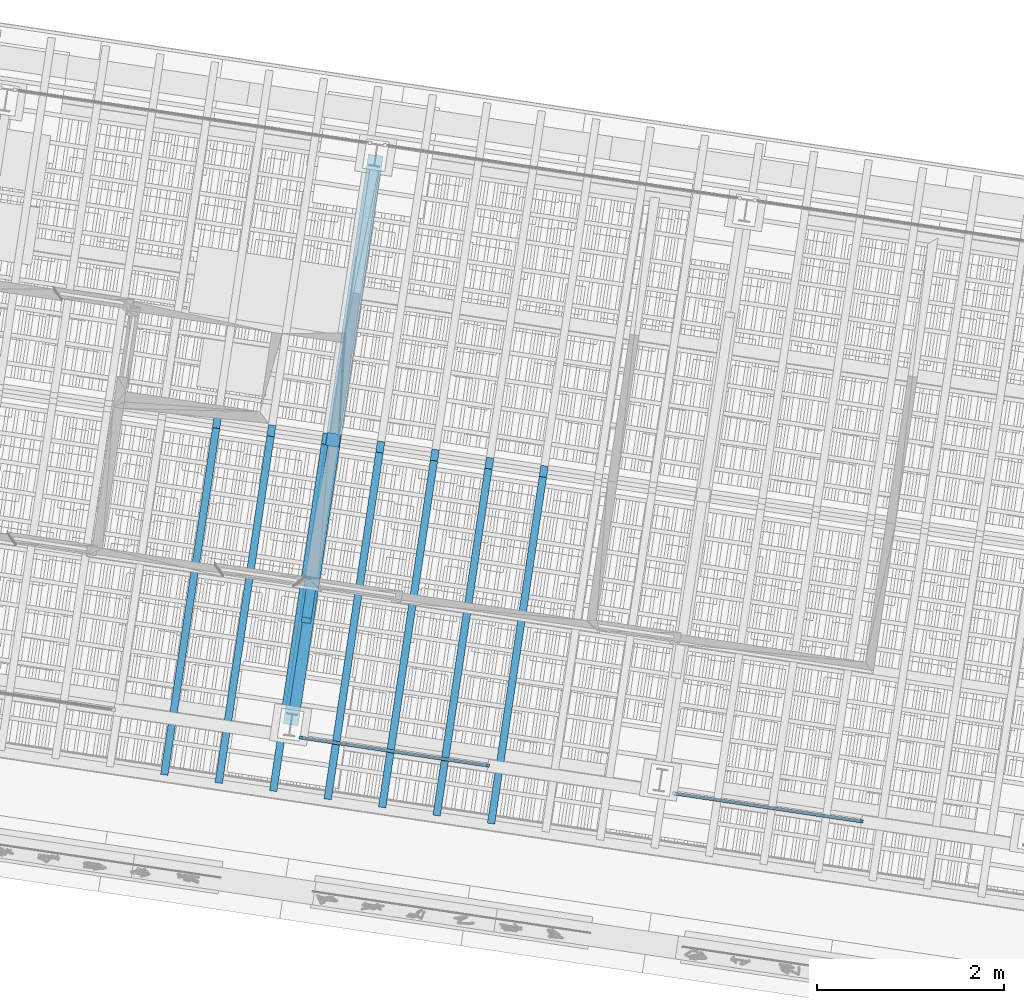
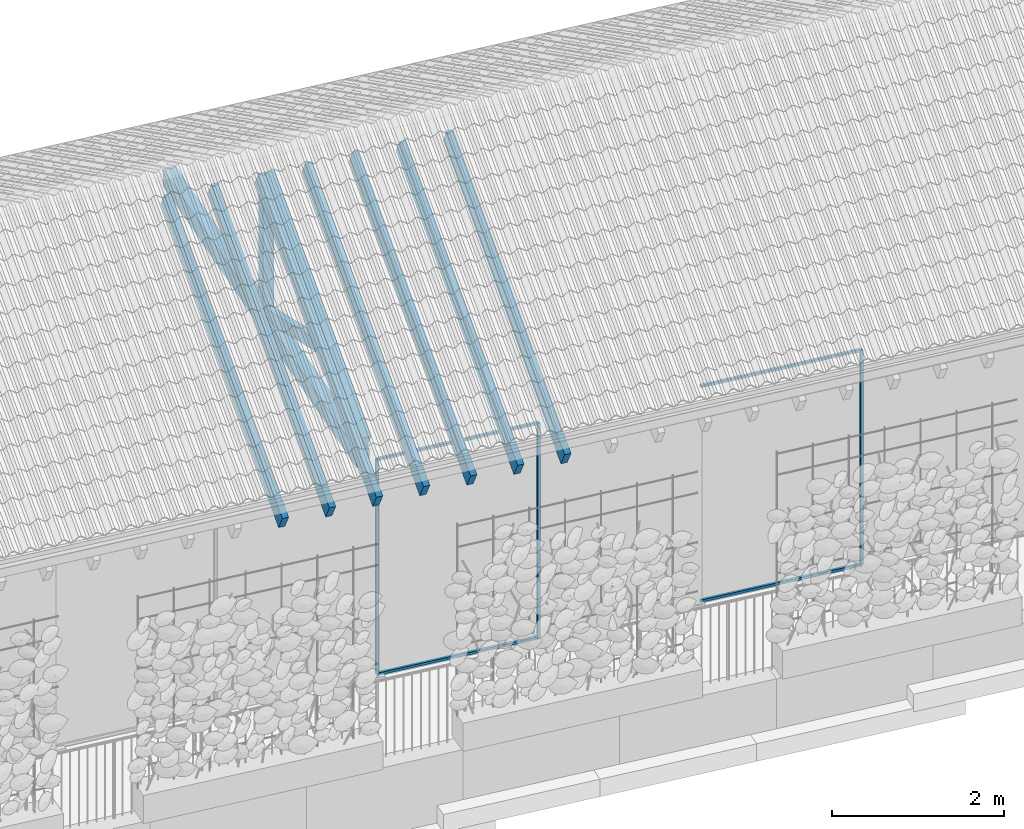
# One storey, part 76 of 128: 17 members, 1 beam, 1 element without a shape of its own.
"""IFC4 building model written with IfcOpenShell, lengths in metres."""

from ifc_helpers import new_model, si_unit, direction, frame, origin_with_axes, place, context, subcontext, project, spatial, rectangle, extrude, material, material_profile, profile_set, profile_usage, type_object, element, aggregate, save


model = new_model("IFC4")

# Units and contexts
model_context = context("Model", 3, precision=1e-05, world=origin_with_axes(), true_north=direction((0.0, 1.0)))
body_context = subcontext(model_context, "Body", "Model", "MODEL_VIEW")
ifc_project = project(units=[si_unit("VOLUMEUNIT", "CUBIC_METRE"), si_unit("LENGTHUNIT", "METRE"), si_unit("AREAUNIT", "SQUARE_METRE")], contexts=[model_context])

# Site, building, storey
site_placement = place(None, origin_with_axes())
site = spatial("IfcSite", under=ifc_project, at=site_placement, Name="Lares · Rua das Mercês · artigo 4771")
building_placement = place(site_placement, frame((15.0, 9.7, 13.9), z_axis=(0.0, 0.0, 1.0), x_axis=(0.989015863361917, -0.147809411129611, 0.0)))
building = spatial("IfcBuilding", under=site, at=building_placement, Name="Casa Sobreposta")
storey_placement = place(building_placement, origin_with_axes())
storey = spatial("IfcBuildingStorey", under=building, at=storey_placement, Name="00 · Habitação e estacionamento", Elevation=13.9)

# Members
ifc_material_1 = material(Name="Aço pintado / Stahl lackiert", Category="steel")
ifc_material_profile_1 = material_profile(ifc_material_1, rectangle(XDim=0.035, YDim=0.035))
ifc_profile_set_1 = profile_set([ifc_material_profile_1], Name="R0.035")
ifc_profile_usage_1 = profile_usage(ifc_profile_set_1)
member_type_1 = type_object("IfcMemberType", Name="R0.035 / steel", PredefinedType="NOTDEFINED", material=ifc_profile_set_1)
member_1_placement = place(storey_placement, frame((12.128, 0.0, 0.0), z_axis=(0.0, 0.0, 1.0), x_axis=(1.0, 0.0, 0.0)))
element("IfcMember", 1, at=member_1_placement, inside=storey, type_object=member_type_1, material=ifc_profile_usage_1, Name="Folha de correr sul 6 · montante", context=body_context, shape_type="SweptSolid", body=[
    extrude(rectangle(XDim=0.035, YDim=0.035), origin_with_axes(), (0.0, 0.0, 1.0), 3.05),
])
ifc_profile_usage_2 = profile_usage(ifc_profile_set_1)
member_2_placement = place(storey_placement, frame((14.1493333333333, 0.0, 0.0), z_axis=(0.0, 0.0, 1.0), x_axis=(1.0, 0.0, 0.0)))
element("IfcMember", 2, at=member_2_placement, inside=storey, type_object=member_type_1, material=ifc_profile_usage_2, Name="Folha de correr sul 6 · montante", context=body_context, shape_type="SweptSolid", body=[
    extrude(rectangle(XDim=0.035, YDim=0.035), origin_with_axes(), (0.0, 0.0, 1.0), 3.05),
])
ifc_profile_usage_3 = profile_usage(ifc_profile_set_1)
member_3_placement = place(storey_placement, frame((12.128, 0.0, 0.0), z_axis=(1.0, 0.0, 0.0), x_axis=(0.0, -1.0, 0.0)))
element("IfcMember", 3, at=member_3_placement, inside=storey, type_object=member_type_1, material=ifc_profile_usage_3, Name="Folha de correr sul 6 · travessa", context=body_context, shape_type="SweptSolid", body=[
    extrude(rectangle(XDim=0.035, YDim=0.035), origin_with_axes(), (0.0, 0.0, 1.0), 2.02133333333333),
])
ifc_profile_usage_4 = profile_usage(ifc_profile_set_1)
member_4_placement = place(storey_placement, frame((12.128, 0.0, 3.05), z_axis=(1.0, 0.0, 0.0), x_axis=(0.0, -1.0, 0.0)))
element("IfcMember", 4, at=member_4_placement, inside=storey, type_object=member_type_1, material=ifc_profile_usage_4, Name="Folha de correr sul 6 · travessa", context=body_context, shape_type="SweptSolid", body=[
    extrude(rectangle(XDim=0.035, YDim=0.035), origin_with_axes(), (0.0, 0.0, 1.0), 2.02133333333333),
])
ifc_profile_usage_5 = profile_usage(ifc_profile_set_1)
member_5_placement = place(storey_placement, frame((18.192, 0.0, 0.0), z_axis=(0.0, 0.0, 1.0), x_axis=(1.0, 0.0, 0.0)))
element("IfcMember", 5, at=member_5_placement, inside=storey, type_object=member_type_1, material=ifc_profile_usage_5, Name="Folha de correr sul 8 · montante", context=body_context, shape_type="SweptSolid", body=[
    extrude(rectangle(XDim=0.035, YDim=0.035), origin_with_axes(), (0.0, 0.0, 1.0), 3.05),
])
ifc_profile_usage_6 = profile_usage(ifc_profile_set_1)
member_6_placement = place(storey_placement, frame((16.1706666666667, 0.0, 0.0), z_axis=(1.0, 0.0, 0.0), x_axis=(0.0, -1.0, 0.0)))
element("IfcMember", 6, at=member_6_placement, inside=storey, type_object=member_type_1, material=ifc_profile_usage_6, Name="Folha de correr sul 8 · travessa", context=body_context, shape_type="SweptSolid", body=[
    extrude(rectangle(XDim=0.035, YDim=0.035), origin_with_axes(), (0.0, 0.0, 1.0), 2.02133333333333),
])
ifc_profile_usage_7 = profile_usage(ifc_profile_set_1)
member_7_placement = place(storey_placement, frame((16.1706666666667, 0.0, 3.05), z_axis=(1.0, 0.0, 0.0), x_axis=(0.0, -1.0, 0.0)))
element("IfcMember", 7, at=member_7_placement, inside=storey, type_object=member_type_1, material=ifc_profile_usage_7, Name="Folha de correr sul 8 · travessa", context=body_context, shape_type="SweptSolid", body=[
    extrude(rectangle(XDim=0.035, YDim=0.035), origin_with_axes(), (0.0, 0.0, 1.0), 2.02133333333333),
])

# Roof, beam, members
ifc_material_2 = material(Name="Madeira / Bauholz", Category="wood")
roof_placement = place(storey_placement, origin_with_axes())
roof = element("IfcRoof", 8, at=roof_placement, inside=storey, material=ifc_material_2, Name="Cobertura de telha · duas águas 30 graus", PredefinedType="GABLE_ROOF")
ifc_material_profile_2 = material_profile(ifc_material_2, rectangle(XDim=0.16, YDim=0.24))
ifc_profile_set_2 = profile_set([ifc_material_profile_2], Name="TIMBER0.160x0.240")
ifc_profile_usage_8 = profile_usage(ifc_profile_set_2)
beam_type = type_object("IfcBeamType", Name="TIMBER0.160x0.240 / timber", PredefinedType="NOTDEFINED", material=ifc_profile_set_2)
beam_placement = place(roof_placement, frame((12.0, 0.12, 3.02), z_axis=(0.0, 1.0, 0.0), x_axis=(1.0, 0.0, 0.0)))
beam = element("IfcBeam", 9, at=beam_placement, type_object=beam_type, material=ifc_profile_usage_8, Name="Tesoura · tirante inferior", context=body_context, shape_type="SweptSolid", body=[
    extrude(rectangle(XDim=0.16, YDim=0.24), origin_with_axes(), (0.0, 0.0, 1.0), 6.16),
])
ifc_material_profile_3 = material_profile(ifc_material_2, rectangle(XDim=0.16, YDim=0.24))
ifc_profile_set_3 = profile_set([ifc_material_profile_3], Name="TIMBER0.160x0.240")
ifc_profile_usage_9 = profile_usage(ifc_profile_set_3)
member_type_2 = type_object("IfcMemberType", Name="TIMBER0.160x0.240 / timber", PredefinedType="NOTDEFINED", material=ifc_profile_set_3)
member_8_placement = place(roof_placement, frame((12.0, 0.12, 3.24428203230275), z_axis=(0.0, 0.866025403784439, 0.5), x_axis=(1.0, 0.0, 0.0)))
member_8 = element("IfcMember", 10, at=member_8_placement, type_object=member_type_2, material=ifc_profile_usage_9, Name="Tesoura · perna", context=body_context, shape_type="SweptSolid", body=[
    extrude(rectangle(XDim=0.16, YDim=0.24), origin_with_axes(), (0.0, 0.0, 1.0), 3.5564776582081),
])
ifc_material_profile_4 = material_profile(ifc_material_2, rectangle(XDim=0.14, YDim=0.14))
ifc_profile_set_4 = profile_set([ifc_material_profile_4], Name="TIMBER0.140x0.140")
ifc_profile_usage_10 = profile_usage(ifc_profile_set_4)
member_type_3 = type_object("IfcMemberType", Name="TIMBER0.140x0.140 / timber", PredefinedType="NOTDEFINED", material=ifc_profile_set_4)
member_9_placement = place(roof_placement, frame((12.0, 3.2, 3.02), z_axis=(0.0, 0.0, 1.0), x_axis=(1.0, 0.0, 0.0)))
member_9 = element("IfcMember", 11, at=member_9_placement, type_object=member_type_3, material=ifc_profile_usage_10, Name="Tesoura · pendural", context=body_context, shape_type="SweptSolid", body=[
    extrude(rectangle(XDim=0.14, YDim=0.14), origin_with_axes(), (0.0, 0.0, 1.0), 2.0025208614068),
])
ifc_material_profile_5 = material_profile(ifc_material_2, rectangle(XDim=0.1, YDim=0.16))
ifc_profile_set_5 = profile_set([ifc_material_profile_5], Name="TIMBER0.100x0.160")
ifc_profile_usage_11 = profile_usage(ifc_profile_set_5)
member_type_4 = type_object("IfcMemberType", Name="TIMBER0.100x0.160 / timber", PredefinedType="NOTDEFINED", material=ifc_profile_set_5)
member_10_placement = place(roof_placement, frame((12.0, 3.2, 3.1), z_axis=(0.0, -0.937832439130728, 0.347088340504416), x_axis=(-1.0, 0.0, 0.0)))
member_10 = element("IfcMember", 12, at=member_10_placement, type_object=member_type_4, material=ifc_profile_usage_11, Name="Tesoura · escora", context=body_context, shape_type="SweptSolid", body=[
    extrude(rectangle(XDim=0.1, YDim=0.16), origin_with_axes(), (0.0, 0.0, 1.0), 2.07926268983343),
])
ifc_material_profile_6 = material_profile(ifc_material_2, rectangle(XDim=0.08, YDim=0.24))
ifc_profile_set_6 = profile_set([ifc_material_profile_6], Name="TIMBER0.080x0.240")
ifc_profile_usage_12 = profile_usage(ifc_profile_set_6)
member_type_5 = type_object("IfcMemberType", Name="TIMBER0.080x0.240 / timber", PredefinedType="NOTDEFINED", material=ifc_profile_set_6)
member_11_placement = place(roof_placement, frame((10.7420754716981, -0.55, 2.86345735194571), z_axis=(0.0, 0.866025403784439, 0.5), x_axis=(1.0, 0.0, 0.0)))
member_11 = element("IfcMember", 13, at=member_11_placement, type_object=member_type_5, material=ifc_profile_usage_12, Name="Cobertura · caibro", context=body_context, shape_type="SweptSolid", body=[
    extrude(rectangle(XDim=0.08, YDim=0.24), origin_with_axes(), (0.0, 0.0, 1.0), 4.33012701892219),
])
ifc_profile_usage_13 = profile_usage(ifc_profile_set_6)
member_12_placement = place(roof_placement, frame((11.3311320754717, -0.55, 2.86345735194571), z_axis=(0.0, 0.866025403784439, 0.5), x_axis=(1.0, 0.0, 0.0)))
member_12 = element("IfcMember", 14, at=member_12_placement, type_object=member_type_5, material=ifc_profile_usage_13, Name="Cobertura · caibro", context=body_context, shape_type="SweptSolid", body=[
    extrude(rectangle(XDim=0.08, YDim=0.24), origin_with_axes(), (0.0, 0.0, 1.0), 4.33012701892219),
])
ifc_profile_usage_14 = profile_usage(ifc_profile_set_6)
member_13_placement = place(roof_placement, frame((11.9201886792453, -0.55, 2.86345735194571), z_axis=(0.0, 0.866025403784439, 0.5), x_axis=(1.0, 0.0, 0.0)))
member_13 = element("IfcMember", 15, at=member_13_placement, type_object=member_type_5, material=ifc_profile_usage_14, Name="Cobertura · caibro", context=body_context, shape_type="SweptSolid", body=[
    extrude(rectangle(XDim=0.08, YDim=0.24), origin_with_axes(), (0.0, 0.0, 1.0), 4.33012701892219),
])
ifc_profile_usage_15 = profile_usage(ifc_profile_set_6)
member_14_placement = place(roof_placement, frame((12.5092452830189, -0.55, 2.86345735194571), z_axis=(0.0, 0.866025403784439, 0.5), x_axis=(1.0, 0.0, 0.0)))
member_14 = element("IfcMember", 16, at=member_14_placement, type_object=member_type_5, material=ifc_profile_usage_15, Name="Cobertura · caibro", context=body_context, shape_type="SweptSolid", body=[
    extrude(rectangle(XDim=0.08, YDim=0.24), origin_with_axes(), (0.0, 0.0, 1.0), 4.33012701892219),
])
ifc_profile_usage_16 = profile_usage(ifc_profile_set_6)
member_15_placement = place(roof_placement, frame((13.0983018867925, -0.55, 2.86345735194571), z_axis=(0.0, 0.866025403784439, 0.5), x_axis=(1.0, 0.0, 0.0)))
member_15 = element("IfcMember", 17, at=member_15_placement, type_object=member_type_5, material=ifc_profile_usage_16, Name="Cobertura · caibro", context=body_context, shape_type="SweptSolid", body=[
    extrude(rectangle(XDim=0.08, YDim=0.24), origin_with_axes(), (0.0, 0.0, 1.0), 4.33012701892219),
])
ifc_profile_usage_17 = profile_usage(ifc_profile_set_6)
member_16_placement = place(roof_placement, frame((13.687358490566, -0.55, 2.86345735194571), z_axis=(0.0, 0.866025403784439, 0.5), x_axis=(1.0, 0.0, 0.0)))
member_16 = element("IfcMember", 18, at=member_16_placement, type_object=member_type_5, material=ifc_profile_usage_17, Name="Cobertura · caibro", context=body_context, shape_type="SweptSolid", body=[
    extrude(rectangle(XDim=0.08, YDim=0.24), origin_with_axes(), (0.0, 0.0, 1.0), 4.33012701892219),
])
ifc_profile_usage_18 = profile_usage(ifc_profile_set_6)
member_17_placement = place(roof_placement, frame((14.2764150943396, -0.55, 2.86345735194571), z_axis=(0.0, 0.866025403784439, 0.5), x_axis=(1.0, 0.0, 0.0)))
member_17 = element("IfcMember", 19, at=member_17_placement, type_object=member_type_5, material=ifc_profile_usage_18, Name="Cobertura · caibro", context=body_context, shape_type="SweptSolid", body=[
    extrude(rectangle(XDim=0.08, YDim=0.24), origin_with_axes(), (0.0, 0.0, 1.0), 4.33012701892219),
])
aggregate(roof, [beam, member_8, member_9, member_10, member_11, member_12, member_13, member_14, member_15, member_16, member_17])

save(model, "model.ifc")
